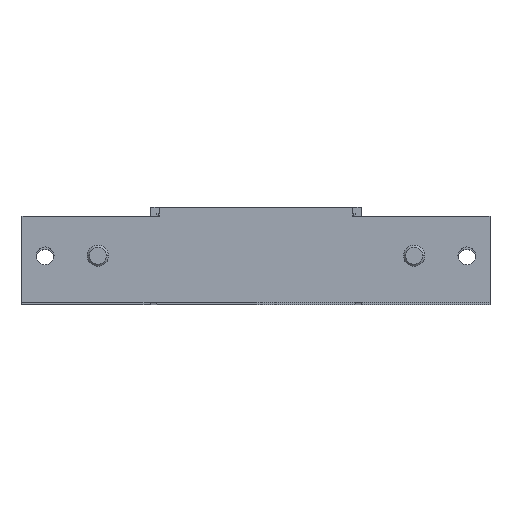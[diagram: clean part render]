
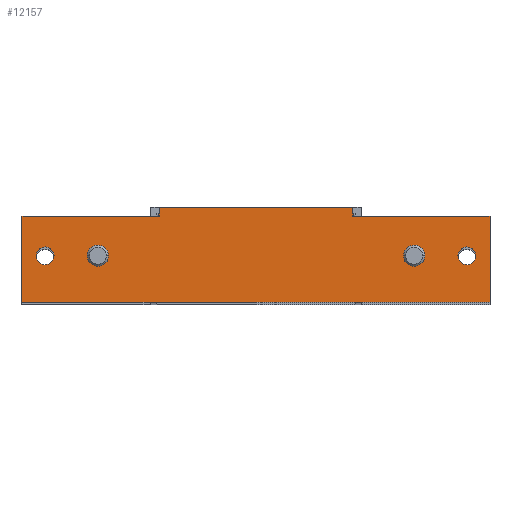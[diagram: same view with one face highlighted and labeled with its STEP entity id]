
A CAD part, top view. The second image highlights one B-rep face of the part: STEP entity #12157.
In plain terms, the highlighted planar face has unit normal (0, 0, 1).
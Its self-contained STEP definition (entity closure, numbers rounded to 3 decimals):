
#1234 = VERTEX_POINT('',#1235);
#1235 = CARTESIAN_POINT('',(-47.9,-11.5,173.5));
#1241 = EDGE_CURVE('',#1242,#1234,#1244,.T.);
#1242 = VERTEX_POINT('',#1243);
#1243 = CARTESIAN_POINT('',(-52.1,-11.5,173.5));
#1244 = CIRCLE('',#1245,2.1);
#1245 = AXIS2_PLACEMENT_3D('',#1246,#1247,#1248);
#1246 = CARTESIAN_POINT('',(-50.,-11.5,173.5));
#1247 = DIRECTION('',(0.,0.,1.));
#1248 = DIRECTION('',(1.,0.,-0.));
#1276 = VERTEX_POINT('',#1277);
#1277 = CARTESIAN_POINT('',(39.6,-11.5,173.5));
#1283 = EDGE_CURVE('',#1284,#1276,#1286,.T.);
#1284 = VERTEX_POINT('',#1285);
#1285 = CARTESIAN_POINT('',(35.4,-11.5,173.5));
#1286 = CIRCLE('',#1287,2.1);
#1287 = AXIS2_PLACEMENT_3D('',#1288,#1289,#1290);
#1288 = CARTESIAN_POINT('',(37.5,-11.5,173.5));
#1289 = DIRECTION('',(0.,0.,1.));
#1290 = DIRECTION('',(-1.,0.,0.));
#1318 = VERTEX_POINT('',#1319);
#1319 = CARTESIAN_POINT('',(52.1,-11.5,173.5));
#1325 = EDGE_CURVE('',#1326,#1318,#1328,.T.);
#1326 = VERTEX_POINT('',#1327);
#1327 = CARTESIAN_POINT('',(47.9,-11.5,173.5));
#1328 = CIRCLE('',#1329,2.1);
#1329 = AXIS2_PLACEMENT_3D('',#1330,#1331,#1332);
#1330 = CARTESIAN_POINT('',(50.,-11.5,173.5));
#1331 = DIRECTION('',(0.,0.,1.));
#1332 = DIRECTION('',(-1.,0.,0.));
#1360 = VERTEX_POINT('',#1361);
#1361 = CARTESIAN_POINT('',(-35.4,-11.5,173.5));
#1367 = EDGE_CURVE('',#1368,#1360,#1370,.T.);
#1368 = VERTEX_POINT('',#1369);
#1369 = CARTESIAN_POINT('',(-39.6,-11.5,173.5));
#1370 = CIRCLE('',#1371,2.1);
#1371 = AXIS2_PLACEMENT_3D('',#1372,#1373,#1374);
#1372 = CARTESIAN_POINT('',(-37.5,-11.5,173.5));
#1373 = DIRECTION('',(0.,0.,1.));
#1374 = DIRECTION('',(1.,0.,-0.));
#4979 = VERTEX_POINT('',#4980);
#4980 = CARTESIAN_POINT('',(-22.9,0.,173.5));
#4986 = EDGE_CURVE('',#4987,#4979,#4989,.T.);
#4987 = VERTEX_POINT('',#4988);
#4988 = CARTESIAN_POINT('',(22.9,0.,173.5));
#4989 = LINE('',#4990,#4991);
#4990 = CARTESIAN_POINT('',(-25.,0.,173.5));
#4991 = VECTOR('',#4992,1.);
#4992 = DIRECTION('',(-1.,0.,0.));
#12098 = VERTEX_POINT('',#12099);
#12099 = CARTESIAN_POINT('',(22.9,-2.1,173.5));
#12114 = EDGE_CURVE('',#12098,#4987,#12115,.T.);
#12115 = LINE('',#12116,#12117);
#12116 = CARTESIAN_POINT('',(22.9,-2.1,173.5));
#12117 = VECTOR('',#12118,1.);
#12118 = DIRECTION('',(-0.,1.,0.));
#12138 = VERTEX_POINT('',#12139);
#12139 = CARTESIAN_POINT('',(-22.9,-2.1,173.5));
#12145 = EDGE_CURVE('',#12138,#4979,#12146,.T.);
#12146 = LINE('',#12147,#12148);
#12147 = CARTESIAN_POINT('',(-22.9,0.,173.5));
#12148 = VECTOR('',#12149,1.);
#12149 = DIRECTION('',(0.,1.,0.));
#12157 = ADVANCED_FACE('',(#12158,#12168,#12178,#12188,#12198),#12241,
  .T.);
#12158 = FACE_BOUND('',#12159,.T.);
#12159 = EDGE_LOOP('',(#12160,#12167));
#12160 = ORIENTED_EDGE('',*,*,#12161,.F.);
#12161 = EDGE_CURVE('',#1234,#1242,#12162,.T.);
#12162 = CIRCLE('',#12163,2.1);
#12163 = AXIS2_PLACEMENT_3D('',#12164,#12165,#12166);
#12164 = CARTESIAN_POINT('',(-50.,-11.5,173.5));
#12165 = DIRECTION('',(0.,0.,1.));
#12166 = DIRECTION('',(1.,0.,-0.));
#12167 = ORIENTED_EDGE('',*,*,#1241,.F.);
#12168 = FACE_BOUND('',#12169,.T.);
#12169 = EDGE_LOOP('',(#12170,#12177));
#12170 = ORIENTED_EDGE('',*,*,#12171,.F.);
#12171 = EDGE_CURVE('',#1276,#1284,#12172,.T.);
#12172 = CIRCLE('',#12173,2.1);
#12173 = AXIS2_PLACEMENT_3D('',#12174,#12175,#12176);
#12174 = CARTESIAN_POINT('',(37.5,-11.5,173.5));
#12175 = DIRECTION('',(0.,0.,1.));
#12176 = DIRECTION('',(-1.,0.,0.));
#12177 = ORIENTED_EDGE('',*,*,#1283,.F.);
#12178 = FACE_BOUND('',#12179,.T.);
#12179 = EDGE_LOOP('',(#12180,#12187));
#12180 = ORIENTED_EDGE('',*,*,#12181,.F.);
#12181 = EDGE_CURVE('',#1318,#1326,#12182,.T.);
#12182 = CIRCLE('',#12183,2.1);
#12183 = AXIS2_PLACEMENT_3D('',#12184,#12185,#12186);
#12184 = CARTESIAN_POINT('',(50.,-11.5,173.5));
#12185 = DIRECTION('',(0.,0.,1.));
#12186 = DIRECTION('',(-1.,0.,0.));
#12187 = ORIENTED_EDGE('',*,*,#1325,.F.);
#12188 = FACE_BOUND('',#12189,.T.);
#12189 = EDGE_LOOP('',(#12190,#12197));
#12190 = ORIENTED_EDGE('',*,*,#12191,.F.);
#12191 = EDGE_CURVE('',#1360,#1368,#12192,.T.);
#12192 = CIRCLE('',#12193,2.1);
#12193 = AXIS2_PLACEMENT_3D('',#12194,#12195,#12196);
#12194 = CARTESIAN_POINT('',(-37.5,-11.5,173.5));
#12195 = DIRECTION('',(0.,0.,1.));
#12196 = DIRECTION('',(1.,0.,-0.));
#12197 = ORIENTED_EDGE('',*,*,#1367,.F.);
#12198 = FACE_BOUND('',#12199,.T.);
#12199 = EDGE_LOOP('',(#12200,#12210,#12218,#12224,#12225,#12226,#12227,
    #12235));
#12200 = ORIENTED_EDGE('',*,*,#12201,.F.);
#12201 = EDGE_CURVE('',#12202,#12204,#12206,.T.);
#12202 = VERTEX_POINT('',#12203);
#12203 = CARTESIAN_POINT('',(55.5,-22.5,173.5));
#12204 = VERTEX_POINT('',#12205);
#12205 = CARTESIAN_POINT('',(-55.5,-22.5,173.5));
#12206 = LINE('',#12207,#12208);
#12207 = CARTESIAN_POINT('',(-22.9,-22.5,173.5));
#12208 = VECTOR('',#12209,1.);
#12209 = DIRECTION('',(-1.,0.,-0.));
#12210 = ORIENTED_EDGE('',*,*,#12211,.F.);
#12211 = EDGE_CURVE('',#12212,#12202,#12214,.T.);
#12212 = VERTEX_POINT('',#12213);
#12213 = CARTESIAN_POINT('',(55.5,-2.1,173.5));
#12214 = LINE('',#12215,#12216);
#12215 = CARTESIAN_POINT('',(55.5,-19.5,173.5));
#12216 = VECTOR('',#12217,1.);
#12217 = DIRECTION('',(0.,-1.,0.));
#12218 = ORIENTED_EDGE('',*,*,#12219,.F.);
#12219 = EDGE_CURVE('',#12098,#12212,#12220,.T.);
#12220 = LINE('',#12221,#12222);
#12221 = CARTESIAN_POINT('',(22.9,-2.1,173.5));
#12222 = VECTOR('',#12223,1.);
#12223 = DIRECTION('',(1.,0.,0.));
#12224 = ORIENTED_EDGE('',*,*,#12114,.T.);
#12225 = ORIENTED_EDGE('',*,*,#4986,.T.);
#12226 = ORIENTED_EDGE('',*,*,#12145,.F.);
#12227 = ORIENTED_EDGE('',*,*,#12228,.T.);
#12228 = EDGE_CURVE('',#12138,#12229,#12231,.T.);
#12229 = VERTEX_POINT('',#12230);
#12230 = CARTESIAN_POINT('',(-55.5,-2.1,173.5));
#12231 = LINE('',#12232,#12233);
#12232 = CARTESIAN_POINT('',(-22.9,-2.1,173.5));
#12233 = VECTOR('',#12234,1.);
#12234 = DIRECTION('',(-1.,0.,0.));
#12235 = ORIENTED_EDGE('',*,*,#12236,.T.);
#12236 = EDGE_CURVE('',#12229,#12204,#12237,.T.);
#12237 = LINE('',#12238,#12239);
#12238 = CARTESIAN_POINT('',(-55.5,-19.5,173.5));
#12239 = VECTOR('',#12240,1.);
#12240 = DIRECTION('',(0.,-1.,-0.));
#12241 = PLANE('',#12242);
#12242 = AXIS2_PLACEMENT_3D('',#12243,#12244,#12245);
#12243 = CARTESIAN_POINT('',(0.,0.,
    173.5));
#12244 = DIRECTION('',(0.,0.,1.));
#12245 = DIRECTION('',(0.,-1.,0.));
